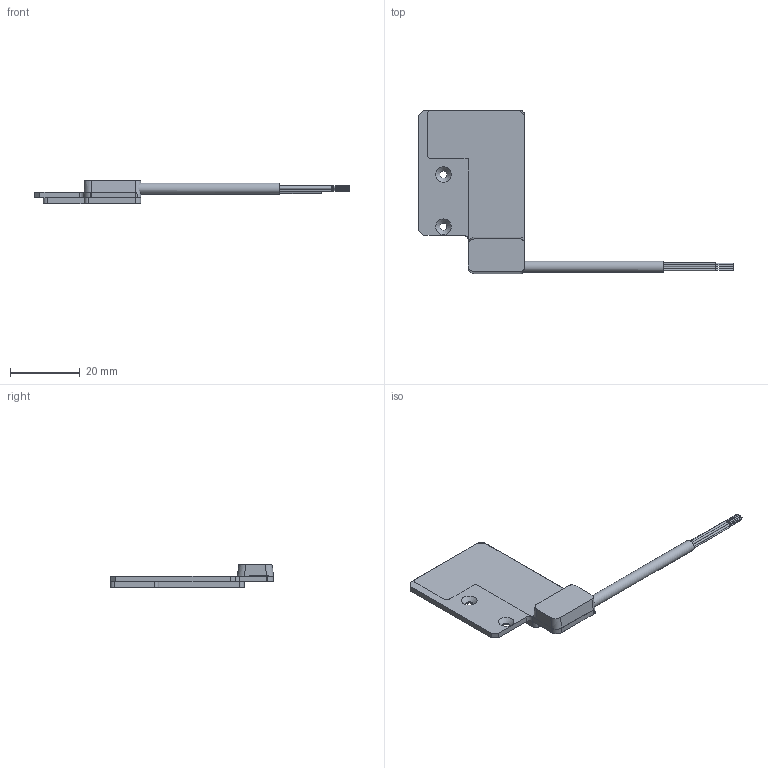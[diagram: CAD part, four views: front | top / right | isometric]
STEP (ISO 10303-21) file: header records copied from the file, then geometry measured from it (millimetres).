
FILE_DESCRIPTION( ( 'Unknown' ), '1' );
FILE_NAME( 'G:/_archief/Cad/_cadsoli/Produkten/Sensors/DigHall Ironless/Iron Less_UM__Digital HALL module_CAD_140124.stp', 'Unknown', ( 'Unknown' ), ( 'Unknown' ), 'PSStep 14.0', 'Unknown', ' ' );
FILE_SCHEMA( ( 'AUTOMOTIVE_DESIGN { 1 0 10303 214 1 1 1 1 }' ) );
Length unit declared in the file: millimetre
Products named in the file (9): 4022 368 10582; 4022 363 60862; Sensor SOT89; Sensor SOT89-oa0; Sensor SOT89-oa1; draadje2; Kabel; Assem1; Giethars DigHall
Assembly tree (12 placements, depth 3):
  Assem1
    Giethars DigHall
    4022 368 10582
      4022 363 60862
      Sensor SOT89
      Sensor SOT89-oa0
      Sensor SOT89-oa1
      draadje2  x5
      Kabel
Bounding box: 90.5 x 47 x 6.9 mm (x, y, z)
Volume: 5976.7 mm3; surface area: 6349.3 mm2
Topology: 11 solids, 11 shells, 243 faces, 570 edges, 382 vertices
Faces by surface type: plane 174, cylinder 57, torus 10, cone 2
Full cylindrical faces by diameter (mm): 0.3 x19, 0.555 x8, 0.6 x10, 0.886 x1, 1.2 x5, 2.1 x2, 3.2 x1
Entity records: 6355 total; most frequent: DIRECTION 969, CARTESIAN_POINT 965, ORIENTED_EDGE 872, EDGE_CURVE 436, LINE 337, VECTOR 337, AXIS2_PLACEMENT_3D 316, VERTEX_POINT 312
